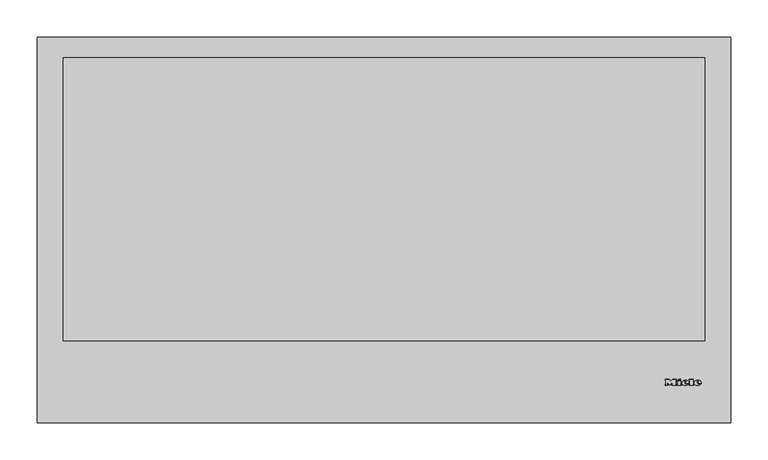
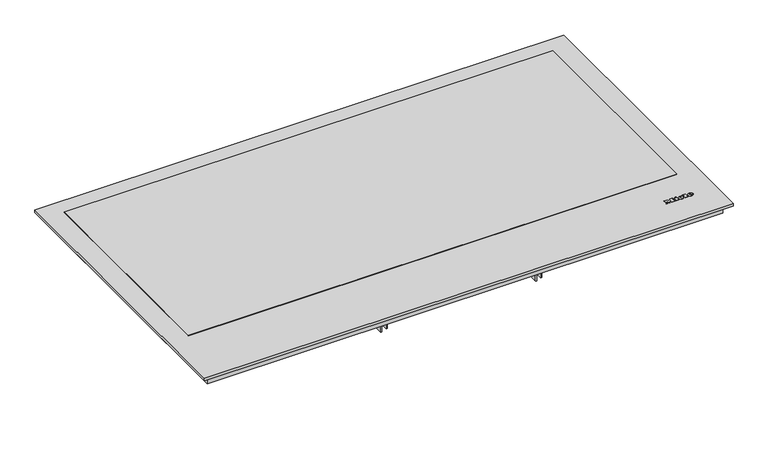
"""IFC4 building model written with IfcOpenShell, lengths in millimetres: proxy geometry, 12275740_TR_KM7897-1FL : 26789773_TR_12275740_KM7897-1FL."""

from ifc_helpers import new_model, si_unit, point, frame, frame_2d, origin, origin_with_axes, place, context, project, spatial, polyline, circle_curve, ellipse_curve, trimmed, segment, composite_curve, outline, extrude, source, transform, mapped, element, save
from ifc_brep_helpers import plane_surface, cylinder_surface, revolved_surface, extruded_surface, advanced_brep


def specialty_equipment_1c5c3643(model_context):
    return source(origin(), model_context, "Body", "SolidModel", [
        advanced_brep(
        [(422.56, 52.3948833, 4.4802537), (422.56, 53.2028828, 4.4811551), (427.912, 53.2028828, 4.4811551), (418.6, 53.2028828, 4.4811551), (420.8, 50.4988845, 4.4781386), (427.776, 52.3948833, 4.4802537), (425.36, 52.3948833, 4.4802537), (423.456, 51.4988838, 4.4792542), (422.56, 54.2268821, 4.4822974), (422.56, 55.0988816, 4.4832701), (423.928, 55.0988816, 4.4832701), (423.928, 54.2268821, 4.4822974), (422.56, 52.3959988, 3.4802543), (423.456, 51.4999994, 3.4792548), (425.36, 52.3959988, 3.4802543), (427.776, 52.3959988, 3.4802543), (420.8, 50.5, 3.4781393), (418.6, 53.2039983, 3.4811557), (427.912, 53.2039983, 3.4811557), (422.56, 53.2039983, 3.4811557), (422.56, 54.2279977, 3.482298), (423.928, 54.2279977, 3.482298), (423.928, 55.0999971, 3.4832707), (422.56, 55.0999971, 3.4832707)],
        [
            (0, 1),
            (1, 2),
            (2, 3, ellipse_curve(frame((423.256, 53.2028828, 4.4811551), z_axis=(0.0, -0.0011155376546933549, 0.9999993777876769), x_axis=(-1.0, 0.0, 0.0)), 4.656, 3.848)),
            (3, 4, circle_curve(frame((421.6960436, 53.4748826, 4.4814585), z_axis=(0.0, -0.0011155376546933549, 0.9999993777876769), x_axis=(0.0, -0.9999993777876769, -0.0011155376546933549)), 3.1079688)),
            (4, 5, circle_curve(frame((423.1627936, 55.5868813, 4.4838145), z_axis=(0.0, -0.0011155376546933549, 0.9999993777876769), x_axis=(0.0, -0.9999993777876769, -0.0011155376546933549)), 5.6098607)),
            (5, 6),
            (6, 7, circle_curve(frame((423.8470588, 53.1388828, 4.4810837), z_axis=(0.0, 0.0011155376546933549, -0.9999993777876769), x_axis=(0.0, -0.9999993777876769, -0.0011155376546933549)), 1.6859795)),
            (7, 0, circle_curve(frame((423.456, 52.3948833, 4.4802537), z_axis=(0.0, 0.0011155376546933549, -0.9999993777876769), x_axis=(0.0, -0.9999993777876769, -0.0011155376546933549)), 0.896)),
            (8, 9),
            (9, 10, circle_curve(frame((423.244, 55.0988816, 4.4832701), z_axis=(0.0, 0.0011155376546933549, -0.9999993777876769), x_axis=(0.0, -0.9999993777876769, -0.0011155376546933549)), 0.684)),
            (10, 11),
            (11, 8),
            (12, 13, circle_curve(frame((423.456, 52.3959988, 3.4802543), z_axis=(0.0, -0.0011155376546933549, 0.9999993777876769), x_axis=(0.0, -0.9999993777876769, -0.0011155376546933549)), 0.896)),
            (13, 14, circle_curve(frame((423.8470588, 53.1399984, 3.4810843), z_axis=(0.0, -0.0011155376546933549, 0.9999993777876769), x_axis=(0.0, -0.9999993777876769, -0.0011155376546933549)), 1.6859795)),
            (14, 15),
            (15, 16, circle_curve(frame((423.1627936, 55.5879968, 3.4838151), z_axis=(0.0, 0.0011155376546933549, -0.9999993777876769), x_axis=(0.0, -0.9999993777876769, -0.0011155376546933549)), 5.6098607)),
            (16, 17, circle_curve(frame((421.6960436, 53.4759981, 3.4814591), z_axis=(0.0, 0.0011155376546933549, -0.9999993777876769), x_axis=(0.0, -0.9999993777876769, -0.0011155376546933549)), 3.1079688)),
            (17, 18, ellipse_curve(frame((423.256, 53.2039983, 3.4811557), z_axis=(0.0, 0.0011155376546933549, -0.9999993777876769), x_axis=(-1.0, 0.0, 0.0)), 4.656, 3.848)),
            (18, 19),
            (19, 12),
            (20, 21),
            (21, 22),
            (22, 23, circle_curve(frame((423.244, 55.0999971, 3.4832707), z_axis=(0.0, -0.0011155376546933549, 0.9999993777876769), x_axis=(0.0, -0.9999993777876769, -0.0011155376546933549)), 0.684)),
            (23, 20),
            (0, 12),
            (19, 1),
            (18, 2),
            (5, 15),
            (14, 6),
            (17, 3),
            (13, 7),
            (16, 4),
            (8, 20),
            (23, 9),
            (22, 10),
            (21, 11),
        ],
        [
            plane_surface(frame((422.56, 53.2028828, 4.4811551), z_axis=(0.0, -0.0011155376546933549, 0.9999993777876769), x_axis=(0.0, 0.9999993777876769, 0.0011155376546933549))),
            plane_surface(frame((422.56, 53.2039983, 3.4811557), z_axis=(0.0, 0.0011155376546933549, -0.9999993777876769), x_axis=(0.0, -0.9999993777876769, -0.0011155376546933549))),
            plane_surface(frame((422.56, 52.3948833, 4.4802537), z_axis=(1.0000000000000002, 0.0, 0.0), x_axis=(0.0, 0.001115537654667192, -0.999999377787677))),
            plane_surface(frame((422.56, 53.2028828, 4.4811551), z_axis=(0.0, -0.999999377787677, -0.001115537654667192), x_axis=(0.0, 0.001115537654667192, -0.999999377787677))),
            plane_surface(frame((427.776, 52.3948833, 4.4802537), z_axis=(0.0, 0.999999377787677, 0.001115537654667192), x_axis=(0.0, 0.001115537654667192, -0.999999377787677))),
            extruded_surface(trimmed(ellipse_curve(frame((423.256, 53.2051139, 2.4811563), z_axis=(0.0, -0.0011155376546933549, 0.9999993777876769), x_axis=(-1.0, 0.0, 0.0)), 4.656, 3.848), [point((427.912, 53.2051139, 2.4811563))], [point((418.6, 53.2051139, 2.4811563))], True, "CARTESIAN"), (0.0, -0.001115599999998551, 0.9999994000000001), 1.00000002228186),
            revolved_surface(polyline([(423.8470588, 51.454019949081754, 3.479203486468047), (423.8470588, 51.45290441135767, 4.4792029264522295)]), (423.8470588, 53.1399984, 3.4810843), (0.0, 0.0011155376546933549, -0.9999993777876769)),
            revolved_surface(polyline([(423.456, 51.49999935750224, 3.4792547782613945), (423.456, 51.49888381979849, 4.479254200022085)]), (423.456, 52.3959988, 3.4802543), (0.0, 0.0011155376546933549, -0.9999993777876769)),
            cylinder_surface(frame((421.6960436, 53.4759981, 3.4814591), z_axis=(0.0, -0.0011155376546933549, 0.9999993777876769), x_axis=(0.0, -0.9999993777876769, -0.0011155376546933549)), 3.1079688),
            cylinder_surface(frame((423.1627936, 55.5879968, 3.4838151), z_axis=(0.0, -0.0011155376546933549, 0.9999993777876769), x_axis=(0.0, -0.9999993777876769, -0.0011155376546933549)), 5.6098607),
            plane_surface(frame((422.56, 54.2268821, 4.4822974), z_axis=(1.0000000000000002, 0.0, 0.0), x_axis=(0.0, 0.001115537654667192, -0.999999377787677))),
            revolved_surface(polyline([(423.244, 54.415997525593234, 3.4825076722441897), (423.244, 54.41488198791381, 4.482507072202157)]), (423.244, 55.0999971, 3.4832707), (0.0, 0.0011155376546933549, -0.9999993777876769)),
            plane_surface(frame((423.928, 55.0988816, 4.4832701), z_axis=(-1.0000000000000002, 0.0, 0.0), x_axis=(0.0, 0.001115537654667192, -0.999999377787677))),
            plane_surface(frame((423.928, 54.2268821, 4.4822974), z_axis=(0.0, 0.999999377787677, 0.001115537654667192), x_axis=(0.0, 0.001115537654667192, -0.999999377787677))),
        ],
        [
            (0, [[1, 2, 3, 4, 5, 6, 7, 8], [9, 10, 11, 12]]),
            (1, [[13, 14, 15, 16, 17, 18, 19, 20], [21, 22, 23, 24]]),
            (2, [[-1, 25, -20, 26]]),
            (3, [[-2, -26, -19, 27]]),
            (4, [[-6, 28, -15, 29]]),
            (5, [[-3, -27, -18, 30]]),
            (6, [[-7, -29, -14, 31]]),
            (7, [[-8, -31, -13, -25]]),
            (8, [[-4, -30, -17, 32]]),
            (9, [[-5, -32, -16, -28]]),
            (10, [[-9, 33, -24, 34]]),
            (11, [[-10, -34, -23, 35]]),
            (12, [[-11, -35, -22, 36]]),
            (13, [[-12, -36, -21, -33]]),
        ],
    ),
        advanced_brep(
        [(405.864, 52.3948833, 4.4802537), (405.864, 53.2028828, 4.4811551), (411.216, 53.2028828, 4.4811551), (401.904, 53.2028828, 4.4811551), (404.104, 50.4988845, 4.4781386), (411.08, 52.3948833, 4.4802537), (408.664, 52.3948833, 4.4802537), (406.76, 51.4988838, 4.4792542), (405.864, 54.2268821, 4.4822974), (405.864, 55.0988816, 4.4832701), (407.232, 55.0988816, 4.4832701), (407.232, 54.2268821, 4.4822974), (405.864, 52.3959988, 3.4802543), (406.76, 51.4999994, 3.4792548), (408.664, 52.3959988, 3.4802543), (411.08, 52.3959988, 3.4802543), (404.104, 50.5, 3.4781393), (401.904, 53.2039983, 3.4811557), (411.216, 53.2039983, 3.4811557), (405.864, 53.2039983, 3.4811557), (405.864, 54.2279977, 3.482298), (407.232, 54.2279977, 3.482298), (407.232, 55.0999971, 3.4832707), (405.864, 55.0999971, 3.4832707)],
        [
            (0, 1),
            (1, 2),
            (2, 3, ellipse_curve(frame((406.56, 53.2028828, 4.4811551), z_axis=(0.0, -0.0011155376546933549, 0.9999993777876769), x_axis=(-1.0, 0.0, 0.0)), 4.656, 3.848)),
            (3, 4, circle_curve(frame((405.0000436, 53.4748826, 4.4814585), z_axis=(0.0, -0.0011155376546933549, 0.9999993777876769), x_axis=(0.0, -0.9999993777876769, -0.0011155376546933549)), 3.1079688)),
            (4, 5, circle_curve(frame((406.4667936, 55.5868813, 4.4838145), z_axis=(0.0, -0.0011155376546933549, 0.9999993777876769), x_axis=(0.0, -0.9999993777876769, -0.0011155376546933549)), 5.6098607)),
            (5, 6),
            (6, 7, circle_curve(frame((407.1510588, 53.1388828, 4.4810837), z_axis=(0.0, 0.0011155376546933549, -0.9999993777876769), x_axis=(0.0, -0.9999993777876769, -0.0011155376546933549)), 1.6859795)),
            (7, 0, circle_curve(frame((406.76, 52.3948833, 4.4802537), z_axis=(0.0, 0.0011155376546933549, -0.9999993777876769), x_axis=(0.0, -0.9999993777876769, -0.0011155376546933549)), 0.896)),
            (8, 9),
            (9, 10, circle_curve(frame((406.548, 55.0988816, 4.4832701), z_axis=(0.0, 0.0011155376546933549, -0.9999993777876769), x_axis=(0.0, -0.9999993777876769, -0.0011155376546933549)), 0.684)),
            (10, 11),
            (11, 8),
            (12, 13, circle_curve(frame((406.76, 52.3959988, 3.4802543), z_axis=(0.0, -0.0011155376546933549, 0.9999993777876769), x_axis=(0.0, -0.9999993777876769, -0.0011155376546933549)), 0.896)),
            (13, 14, circle_curve(frame((407.1510588, 53.1399984, 3.4810843), z_axis=(0.0, -0.0011155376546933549, 0.9999993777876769), x_axis=(0.0, -0.9999993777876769, -0.0011155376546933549)), 1.6859795)),
            (14, 15),
            (15, 16, circle_curve(frame((406.4667936, 55.5879968, 3.4838151), z_axis=(0.0, 0.0011155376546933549, -0.9999993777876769), x_axis=(0.0, -0.9999993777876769, -0.0011155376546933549)), 5.6098607)),
            (16, 17, circle_curve(frame((405.0000436, 53.4759981, 3.4814591), z_axis=(0.0, 0.0011155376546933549, -0.9999993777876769), x_axis=(0.0, -0.9999993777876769, -0.0011155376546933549)), 3.1079688)),
            (17, 18, ellipse_curve(frame((406.56, 53.2039983, 3.4811557), z_axis=(0.0, 0.0011155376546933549, -0.9999993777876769), x_axis=(-1.0, 0.0, 0.0)), 4.656, 3.848)),
            (18, 19),
            (19, 12),
            (20, 21),
            (21, 22),
            (22, 23, circle_curve(frame((406.548, 55.0999971, 3.4832707), z_axis=(0.0, -0.0011155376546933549, 0.9999993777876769), x_axis=(0.0, -0.9999993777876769, -0.0011155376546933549)), 0.684)),
            (23, 20),
            (0, 12),
            (19, 1),
            (18, 2),
            (5, 15),
            (14, 6),
            (17, 3),
            (13, 7),
            (16, 4),
            (8, 20),
            (23, 9),
            (22, 10),
            (21, 11),
        ],
        [
            plane_surface(frame((405.864, 53.2028828, 4.4811551), z_axis=(0.0, -0.0011155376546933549, 0.9999993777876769), x_axis=(0.0, 0.9999993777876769, 0.0011155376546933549))),
            plane_surface(frame((405.864, 53.2039983, 3.4811557), z_axis=(0.0, 0.0011155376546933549, -0.9999993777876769), x_axis=(0.0, -0.9999993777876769, -0.0011155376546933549))),
            plane_surface(frame((405.864, 52.3948833, 4.4802537), z_axis=(1.0000000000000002, 0.0, 0.0), x_axis=(0.0, 0.001115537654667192, -0.999999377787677))),
            plane_surface(frame((405.864, 53.2028828, 4.4811551), z_axis=(0.0, -0.999999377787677, -0.001115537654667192), x_axis=(0.0, 0.001115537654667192, -0.999999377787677))),
            plane_surface(frame((411.08, 52.3948833, 4.4802537), z_axis=(0.0, 0.999999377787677, 0.001115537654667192), x_axis=(0.0, 0.001115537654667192, -0.999999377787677))),
            extruded_surface(trimmed(ellipse_curve(frame((406.56, 53.2051139, 2.4811563), z_axis=(0.0, -0.0011155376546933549, 0.9999993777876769), x_axis=(-1.0, 0.0, 0.0)), 4.656, 3.848), [point((411.216, 53.2051139, 2.4811563))], [point((401.904, 53.2051139, 2.4811563))], True, "CARTESIAN"), (0.0, -0.001115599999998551, 0.9999994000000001), 1.00000002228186),
            revolved_surface(polyline([(407.1510588, 51.454019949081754, 3.479203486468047), (407.1510588, 51.45290441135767, 4.4792029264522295)]), (407.1510588, 53.1399984, 3.4810843), (0.0, 0.0011155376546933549, -0.9999993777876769)),
            revolved_surface(polyline([(406.76, 51.49999935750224, 3.4792547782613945), (406.76, 51.49888381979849, 4.479254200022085)]), (406.76, 52.3959988, 3.4802543), (0.0, 0.0011155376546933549, -0.9999993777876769)),
            cylinder_surface(frame((405.0000436, 53.4759981, 3.4814591), z_axis=(0.0, -0.0011155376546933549, 0.9999993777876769), x_axis=(0.0, -0.9999993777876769, -0.0011155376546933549)), 3.1079688),
            cylinder_surface(frame((406.4667936, 55.5879968, 3.4838151), z_axis=(0.0, -0.0011155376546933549, 0.9999993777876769), x_axis=(0.0, -0.9999993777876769, -0.0011155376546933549)), 5.6098607),
            plane_surface(frame((405.864, 54.2268821, 4.4822974), z_axis=(1.0000000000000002, 0.0, 0.0), x_axis=(0.0, 0.001115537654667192, -0.999999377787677))),
            revolved_surface(polyline([(406.548, 54.415997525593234, 3.4825076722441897), (406.548, 54.41488198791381, 4.482507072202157)]), (406.548, 55.0999971, 3.4832707), (0.0, 0.0011155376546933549, -0.9999993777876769)),
            plane_surface(frame((407.232, 55.0988816, 4.4832701), z_axis=(-1.0000000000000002, 0.0, 0.0), x_axis=(0.0, 0.001115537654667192, -0.999999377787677))),
            plane_surface(frame((407.232, 54.2268821, 4.4822974), z_axis=(0.0, 0.999999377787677, 0.001115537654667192), x_axis=(0.0, 0.001115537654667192, -0.999999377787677))),
        ],
        [
            (0, [[1, 2, 3, 4, 5, 6, 7, 8], [9, 10, 11, 12]]),
            (1, [[13, 14, 15, 16, 17, 18, 19, 20], [21, 22, 23, 24]]),
            (2, [[-1, 25, -20, 26]]),
            (3, [[-2, -26, -19, 27]]),
            (4, [[-6, 28, -15, 29]]),
            (5, [[-3, -27, -18, 30]]),
            (6, [[-7, -29, -14, 31]]),
            (7, [[-8, -31, -13, -25]]),
            (8, [[-4, -30, -17, 32]]),
            (9, [[-5, -32, -16, -28]]),
            (10, [[-9, 33, -24, 34]]),
            (11, [[-10, -34, -23, 35]]),
            (12, [[-11, -35, -22, 36]]),
            (13, [[-12, -36, -21, -33]]),
        ],
    ),
        extrude(outline(polyline([(0.0, 0.0), (-0.0109086, -2.9993294), (-1.4390415, -2.9920868), (-1.4315307, 0.0), (0.0, 0.0)])), frame((397.12, 58.0279953, 3.486537), z_axis=(0.0, -0.001115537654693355, 0.999999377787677), x_axis=(-0.4247202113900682, 0.9053240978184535, 0.0010099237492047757)), (0.0, 0.0, 1.0), 1.0),
        extrude(outline(polyline([(-0.4933908, 2.4141097), (-2.7800844, -2.4601583), (-7.0459741, -0.4588767), (-7.4401145, -1.299018), (-8.6568709, -0.728194), (-5.9760369, 4.9862153), (-4.7592805, 4.4153913), (-5.1636142, 3.5535222), (-2.1941493, 2.1604399), (-1.7898157, 3.022309), (-0.4933908, 2.4141097)])), frame((397.12, 58.0279953, 3.486537), z_axis=(0.0, -0.001115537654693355, 0.999999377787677), x_axis=(-0.4247202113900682, 0.9053240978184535, 0.0010099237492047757)), (0.0, 0.0, 1.0), 1.0),
        extrude(outline(polyline([(0.0, 0.0), (0.0, -1.304), (-5.504, -1.304), (-5.504, 5.3519999), (-6.488, 5.3519999), (-6.488, 6.696), (0.0, 6.696), (0.0, 5.3519999), (-0.96, 5.3519999), (-0.96, 0.0), (0.0, 0.0)])), frame((411.664, 57.1959958, 3.4856089), z_axis=(0.0, -0.0011155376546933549, 0.9999993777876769), x_axis=(-1.0, 0.0, 0.0)), (0.0, 0.0, 1.0), 1.0),
        extrude(outline(polyline([(0.0, 0.0), (0.0, -1.304), (-5.576, -1.304), (-7.92, 1.696), (-10.256, -1.304), (-15.128, -1.304), (-15.128, 0.0), (-14.112, 0.0), (-14.112, 5.3519999), (-15.128, 5.3519999), (-15.128, 6.696), (-8.744, 6.696), (-8.744, 5.3519999), (-9.728, 5.3519999), (-9.728, 1.8807777), (-6.136, 6.696), (-2.56, 1.9488752), (-2.56, 5.3519999), (-3.52, 5.3519999), (-3.52, 6.696), (0.0, 6.696), (0.0, 5.3519999), (-0.968, 5.3519999), (-0.968, 0.0), (0.0, 0.0)])), frame((379.2, 57.1959958, 3.4856089), z_axis=(0.0, -0.0011155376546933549, 0.9999993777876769), x_axis=(-1.0, 0.0, 0.0)), (0.0, 0.0, 1.0), 1.0),
        extrude(outline(polyline([(354.2772603, 459.5), (346.9, 459.5), (346.9, 460.7557039), (353.0215564, 460.7557039), (353.0215564, 464.0519266), (347.370889, 464.0519266), (347.370889, 465.3076304), (353.0215564, 465.3076304), (353.0215564, 468.2899271), (347.056963, 468.2899271), (347.056963, 469.545631), (354.2772603, 469.545631), (354.2772603, 459.5)])), frame((0.0, 0.0, -77.5), z_axis=(0.0, 0.0, 1.0), x_axis=(1.0, 0.0, 0.0)), (0.0, 0.0, 1.0), 1.0),
        extrude(outline(polyline([(345.0164442, 459.5), (338.7379248, 459.5), (338.7379248, 460.7557039), (343.7607403, 460.7557039), (343.7607403, 469.545631), (345.0164442, 469.545631), (345.0164442, 459.5)])), frame((0.0, 0.0, -77.5), z_axis=(0.0, 0.0, 1.0), x_axis=(1.0, 0.0, 0.0)), (0.0, 0.0, 1.0), 1.0),
        extrude(outline(polyline([(14.0, -27.0), (14.0, -16.8), (58.0, -16.8), (58.0, -43.0), (30.0, -43.0), (30.0, -27.0), (14.0, -27.0)])), frame((135.3333333, 0.0, 0.0), z_axis=(1.0, 0.0, 0.0), x_axis=(0.0, 1.0, 0.0)), (0.0, 0.0, 1.0), 2.0),
        extrude(outline(polyline([(478.0, -16.8), (506.0, -16.8), (506.0, -27.0), (490.0, -27.0), (490.0, -43.0), (478.0, -43.0), (478.0, -16.8)])), frame((135.3333333, 0.0, 0.0), z_axis=(1.0, 0.0, 0.0), x_axis=(0.0, 1.0, 0.0)), (0.0, 0.0, 1.0), 2.0),
        extrude(outline(polyline([(14.0, -27.0), (14.0, -16.8), (58.0, -16.8), (58.0, -43.0), (30.0, -43.0), (30.0, -27.0), (14.0, -27.0)])), frame((-138.3333333, 0.0, 0.0), z_axis=(1.0, 0.0, 0.0), x_axis=(0.0, 1.0, 0.0)), (0.0, 0.0, 1.0), 2.0),
        extrude(outline(polyline([(490.0, -27.0), (490.0, -43.0), (478.0, -43.0), (478.0, -16.8), (506.0, -16.8), (506.0, -27.0), (490.0, -27.0)])), frame((-138.3333333, 0.0, 0.0), z_axis=(1.0, 0.0, 0.0), x_axis=(0.0, 1.0, 0.0)), (0.0, 0.0, 1.0), 2.0),
        extrude(outline(polyline([(409.0, 478.0), (409.0, 58.0), (-409.0, 58.0), (-409.0, 478.0), (409.0, 478.0)])), frame((0.0, 0.0, -46.5), z_axis=(0.0, 0.0, 1.0), x_axis=(1.0, 0.0, 0.0)), (0.0, 0.0, 1.0), 29.7),
        extrude(outline(polyline([(468.0, 520.0), (468.0, 0.0), (-468.0, 0.0), (-468.0, 520.0), (468.0, 520.0)])), origin_with_axes(), (0.0, 0.0, 1.0), 4.0),
        extrude(outline(polyline([(456.5, 508.5), (456.5, 11.5), (-456.5, 11.5), (-456.5, 508.5), (456.5, 508.5)])), frame((0.0, 0.0, -16.8), z_axis=(0.0, 0.0, 1.0), x_axis=(1.0, 0.0, 0.0)), (0.0, 0.0, 1.0), 16.8),
        extrude(outline(composite_curve([segment(trimmed(circle_curve(frame_2d((346.9, 464.5)), 7.5), [point((346.9, 472.0))], [point((346.9, 457.0))], False, "CARTESIAN"), True, "CONTINUOUS"), segment(trimmed(circle_curve(frame_2d((346.9, 464.5)), 7.5), [point((346.9, 457.0))], [point((346.9, 472.0))], False, "CARTESIAN"), True, "CONTINUOUS")], self_intersect=False)), frame((0.0, 0.0, -76.5), z_axis=(0.0, 0.0, 1.0), x_axis=(1.0, 0.0, 0.0)), (0.0, 0.0, 1.0), 30.0),
        extrude(outline(polyline([(432.5, 492.05), (432.5, 110.55), (-432.5, 110.55), (-432.5, 492.05), (432.5, 492.05)])), frame((0.0, 0.0, 4.0), z_axis=(0.0, 0.0, 1.0), x_axis=(1.0, 0.0, 0.0)), (0.0, 0.0, 1.0), 1.0),
        extrude(outline(composite_curve([segment(trimmed(circle_curve(frame_2d((-449.0, 80.0)), 3.0), [point((-449.0, 83.0))], [point((-449.0, 77.0))], False, "CARTESIAN"), True, "CONTINUOUS"), segment(trimmed(circle_curve(frame_2d((-449.0, 80.0)), 3.0), [point((-449.0, 77.0))], [point((-449.0, 83.0))], False, "CARTESIAN"), True, "CONTINUOUS")], self_intersect=False)), frame((0.0, 0.0, -22.0), z_axis=(0.0, 0.0, 1.0), x_axis=(1.0, 0.0, 0.0)), (0.0, 0.0, 1.0), 5.2),
        extrude(outline(composite_curve([segment(trimmed(circle_curve(frame_2d((449.0, 440.0)), 3.0), [point((449.0, 443.0))], [point((449.0, 437.0))], False, "CARTESIAN"), True, "CONTINUOUS"), segment(trimmed(circle_curve(frame_2d((449.0, 440.0)), 3.0), [point((449.0, 437.0))], [point((449.0, 443.0))], False, "CARTESIAN"), True, "CONTINUOUS")], self_intersect=False)), frame((0.0, 0.0, -22.0), z_axis=(0.0, 0.0, 1.0), x_axis=(1.0, 0.0, 0.0)), (0.0, 0.0, 1.0), 5.2),
    ])


if __name__ == "__main__":
    model = new_model("IFC4")
    model_context = context("Model", 3, world=origin())
    ifc_project = project(units=[si_unit("LENGTHUNIT", "METRE", prefix="MILLI")], contexts=[model_context])
    site = spatial("IfcSite", under=ifc_project)
    building = spatial("IfcBuilding", under=site)
    placement = place(None, origin())
    specialty_equipment_shape = specialty_equipment_1c5c3643(model_context)
    element("IfcBuildingElementProxy", 1, Name="12275740_TR_KM7897-1FL : 26789773_TR_12275740_KM7897-1FL", ObjectType="12275740_TR_KM7897-1FL : 26789773_TR_12275740_KM7897-1FL", at=placement, inside=building, context=model_context, shape_type="MappedRepresentation", body=[
        mapped(specialty_equipment_shape, transform((0.0, 0.0, 0.0), x_axis=(1.0, 0.0, 0.0), y_axis=(0.0, 1.0, 0.0), z_axis=(0.0, 0.0, 1.0))),
    ])
    save(model, "model.ifc")
